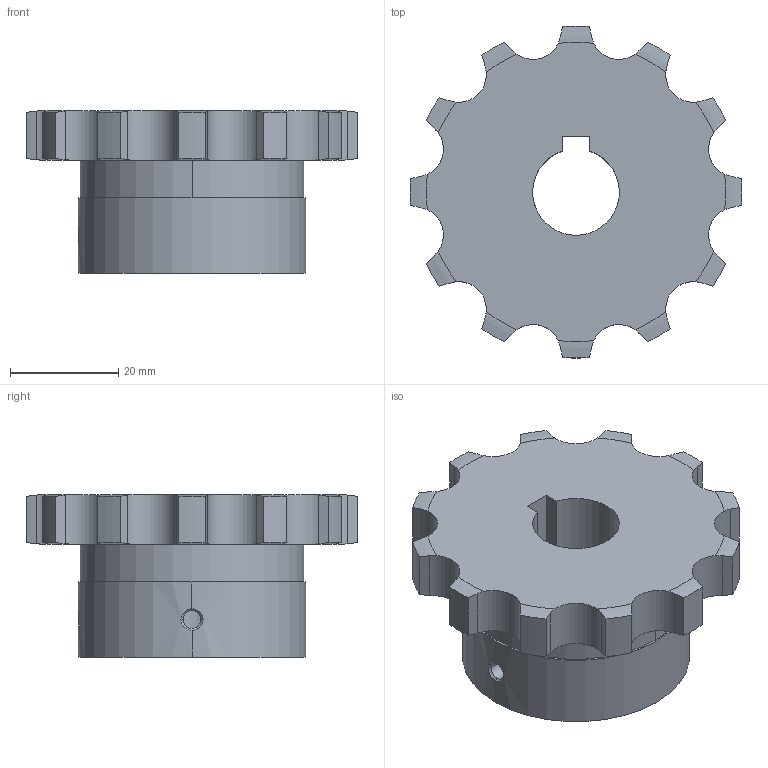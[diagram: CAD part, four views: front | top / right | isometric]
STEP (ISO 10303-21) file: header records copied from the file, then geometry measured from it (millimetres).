
FILE_DESCRIPTION((''),'2;1');
FILE_NAME('510-301-1612_PRT','2021-02-13T',('Brieden'),('Brieden'),'PRO/ENGINEER BY PARAMETRIC TECHNOLOGY CORPORATION, 2010160','PRO/ENGINEER BY PARAMETRIC TECHNOLOGY CORPORATION, 2010160','');
FILE_SCHEMA(('AUTOMOTIVE_DESIGN { 1 0 10303 214 1 1 1 1 }'));
Length unit declared in the file: millimetre
Products named in the file (1): 510-301-1612_PRT
Bounding box: 61.32 x 61.32 x 30 mm (x, y, z)
Volume: 44491.4 mm3; surface area: 11392.8 mm2
Topology: 1 solids, 1 shells, 94 faces, 267 edges, 176 vertices
Faces by surface type: cylinder 57, torus 24, plane 7, bspline 6
Entity records: 4626 total; most frequent: CARTESIAN_POINT 1454, ORIENTED_EDGE 534, DIRECTION 417, PRESENTATION_STYLE_ASSIGNMENT 268, STYLED_ITEM 268, CURVE_STYLE 267, EDGE_CURVE 267, VERTEX_POINT 176
